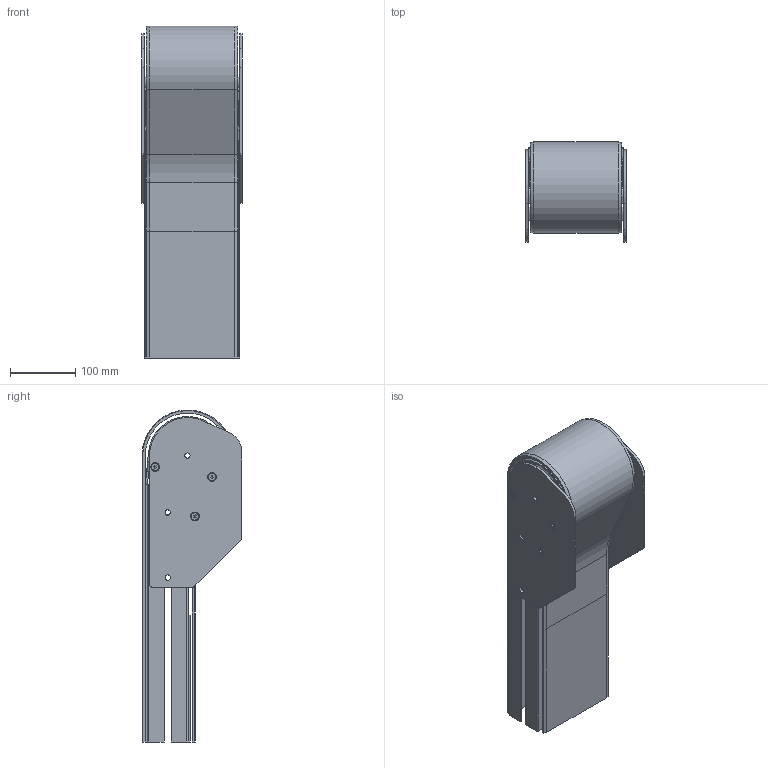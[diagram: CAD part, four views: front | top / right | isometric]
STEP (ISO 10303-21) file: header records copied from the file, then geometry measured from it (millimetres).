
FILE_DESCRIPTION(/* description */ ('IDLER UNIT S540'),/* implementation_level */ '2;1');
FILE_NAME(/* name */ '540-4000.stp',/* time_stamp */ '2022-09-21T15:16:03+02:00',/* author */ ('PL'),/* organization */ ('CARRYLINE'),/* preprocessor_version */ 'ST-DEVELOPER v19.2',/* originating_system */ 'Autodesk Inventor 2023',/* authorisation */ '');
FILE_SCHEMA (('AUTOMOTIVE_DESIGN { 1 0 10303 214 3 1 1 }'));
Length unit declared in the file: centimetre
Products named in the file (1): 540-4000
Bounding box: 154 x 153.5 x 509.92 mm (x, y, z)
Volume: 1441284.4 mm3; surface area: 719895.3 mm2
Topology: 1 solids, 1 shells, 334 faces, 902 edges, 568 vertices
Faces by surface type: plane 220, cylinder 86, cone 28
Full cylindrical faces by diameter (mm): 6 x6, 6.2 x6, 8.2 x6, 11.34 x6
Entity records: 10799 total; most frequent: CARTESIAN_POINT 1913, ORIENTED_EDGE 1792, DIRECTION 1770, EDGE_CURVE 896, LINE 596, VECTOR 596, AXIS2_PLACEMENT_3D 587, VERTEX_POINT 568
